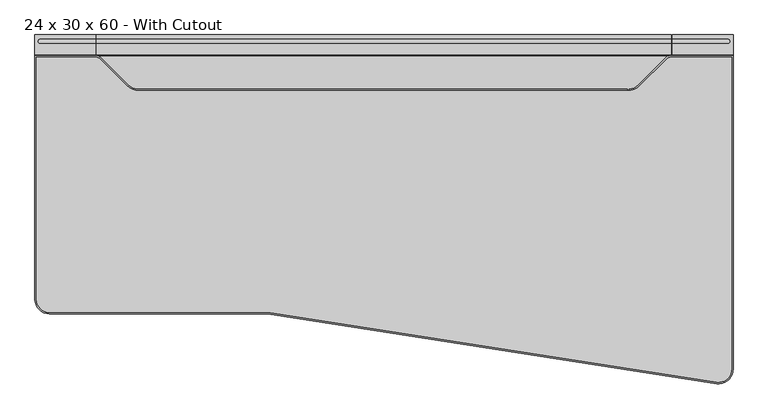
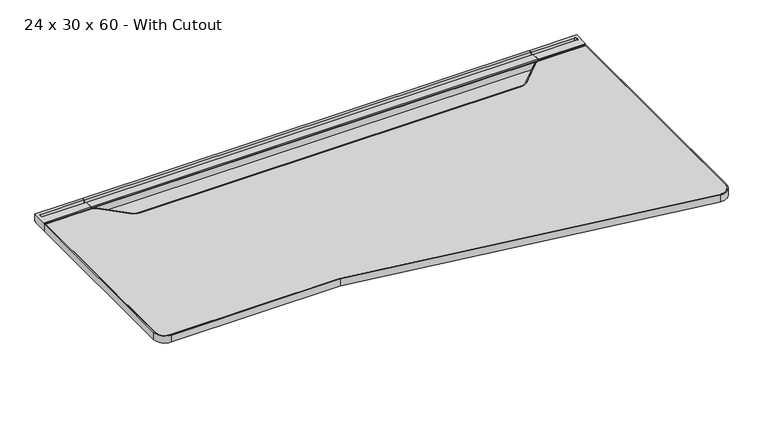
"""IFC4 building model written with IfcOpenShell, lengths in millimetres: furniture geometry, Steelcase - C Scape - Desking - Right Hand Transition - Non Sliding : 24 x 30 x 60 - With Cutout."""

from ifc_helpers import new_model, si_unit, point, frame, frame_2d, origin, place, context, project, spatial, polyline, circle_curve, trimmed, segment, composite_curve, outline, extrude, faceted_brep, source, transform, mapped, element, save
from ifc_brep_helpers import plane_surface, cylinder_surface, revolved_surface, advanced_brep


def furniture_24_x_30_x_60_with_cutout_557fada7(model_context):
    return source(origin(), model_context, "Body", "SolidModel", [
        advanced_brep(
        [(1390.9802124, -45.3135132, 703.3768), (1390.9802124, -45.3135132, 722.4268341), (1390.9802124, -42.7750923, 722.4268341), (1390.9802124, -42.7750923, 725.932), (1390.9802124, -19.3290527, 725.932), (1390.9802124, -19.3290527, 713.486), (1390.9802124, -8.5111084, 713.486), (1390.9802124, -8.5111084, 725.932), (1390.9802124, 0.0, 725.932), (1390.9802124, 0.0, 705.1038636), (1390.9802124, -3.2278472, 705.1038636), (1390.9802124, -4.0331902, 703.3768), (1524.0, -45.3135132, 703.3768), (1524.0, -4.0331902, 703.3768), (1524.0, -3.2278472, 705.1038636), (1524.0, 0.0, 705.1038636), (1524.0, 0.0, 725.932), (1524.0, -42.7750923, 725.932), (1524.0, -42.7750923, 722.4268341), (1524.0, -45.3135132, 722.4268341), (1512.2379272, -8.5111084, 725.932), (1512.2379272, -19.3290527, 725.932), (1512.2379272, -19.3290527, 713.486), (1512.2379272, -8.5111084, 713.486)],
        [
            (0, 1),
            (1, 2),
            (2, 3),
            (3, 4),
            (4, 5),
            (5, 6),
            (6, 7),
            (7, 8),
            (8, 9),
            (9, 10),
            (10, 11),
            (11, 0),
            (12, 13),
            (13, 14),
            (14, 15),
            (15, 16),
            (16, 17),
            (17, 18),
            (18, 19),
            (19, 12),
            (11, 13),
            (12, 0),
            (10, 14),
            (9, 15),
            (8, 16),
            (7, 20),
            (20, 21, circle_curve(frame((1512.2379272, -13.9200806, 725.932), z_axis=(0.0, 0.0, -1.0), x_axis=(-1.0, 0.0, 0.0)), 5.4089722)),
            (21, 4),
            (3, 17),
            (2, 18),
            (1, 19),
            (5, 22),
            (22, 23, circle_curve(frame((1512.2379272, -13.9200806, 713.486), z_axis=(0.0, 0.0, 1.0), x_axis=(-1.0, 0.0, 0.0)), 5.4089722)),
            (23, 6),
            (23, 20),
            (22, 21),
        ],
        [
            plane_surface(frame((1390.9802124, -45.3135132, 703.3768), z_axis=(-1.0, 0.0, 0.0), x_axis=(0.0, 1.0, 0.0))),
            plane_surface(frame((1524.0, -45.3135132, 703.3768), z_axis=(1.0, 0.0, 0.0), x_axis=(0.0, -1.0, 0.0))),
            plane_surface(frame((1390.9802124, -45.3135132, 703.3768), z_axis=(0.0, 0.0, -1.0), x_axis=(1.0, 0.0, 0.0))),
            plane_surface(frame((1390.9802124, -4.0331902, 703.3768), z_axis=(0.0, 0.9063077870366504, -0.4226182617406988), x_axis=(1.0, 0.0, 0.0))),
            plane_surface(frame((1390.9802124, -3.2278472, 705.1038636), z_axis=(0.0, 0.0, -1.0), x_axis=(1.0, 0.0, 0.0))),
            plane_surface(frame((1390.9802124, 0.0, 705.1038636), z_axis=(0.0, 1.0, 0.0), x_axis=(1.0, 0.0, 0.0))),
            plane_surface(frame((1390.9802124, 0.0, 725.932), z_axis=(0.0, 0.0, 1.0), x_axis=(1.0, 0.0, 0.0))),
            plane_surface(frame((1390.9802124, -42.7750923, 725.932), z_axis=(0.0, -1.0, 0.0), x_axis=(1.0, 0.0, 0.0))),
            plane_surface(frame((1390.9802124, -42.7750923, 722.4268341), z_axis=(0.0, 0.0, 1.0), x_axis=(1.0, 0.0, 0.0))),
            plane_surface(frame((1390.9802124, -45.3135132, 722.4268341), z_axis=(0.0, -1.0, 0.0), x_axis=(1.0, 0.0, 0.0))),
            plane_surface(frame((1512.2379272, -8.5111084, 713.486), z_axis=(0.0, 0.0, 1.0), x_axis=(-1.0, 0.0, 0.0))),
            plane_surface(frame((1390.9802124, -8.5111084, 731.2180541), z_axis=(0.0, -1.0, 0.0), x_axis=(0.0, 0.0, -1.0))),
            revolved_surface(polyline([(1506.828955, -13.9200806, 725.932), (1506.828955, -13.9200806, 713.486)]), (1512.2379272, -13.9200806, 713.486), (0.0, 0.0, 1.0)),
            plane_surface(frame((1512.2379272, -19.3290527, 731.2180541), z_axis=(0.0, 1.0, 0.0), x_axis=(0.0, 0.0, -1.0))),
        ],
        [
            (0, [[1, 2, 3, 4, 5, 6, 7, 8, 9, 10, 11, 12]]),
            (1, [[13, 14, 15, 16, 17, 18, 19, 20]]),
            (2, [[21, -13, 22, -12]]),
            (3, [[23, -14, -21, -11]]),
            (4, [[24, -15, -23, -10]]),
            (5, [[25, -16, -24, -9]]),
            (6, [[-25, -8, 26, 27, 28, -4, 29, -17]]),
            (7, [[30, -18, -29, -3]]),
            (8, [[31, -19, -30, -2]]),
            (9, [[-22, -20, -31, -1]]),
            (10, [[-6, 32, 33, 34]]),
            (11, [[35, -26, -7, -34]]),
            (12, [[36, -27, -35, -33]]),
            (13, [[-5, -28, -36, -32]]),
        ],
    ),
        faceted_brep([(1504.9492368, -565.0752923, 700.7093833), (1504.9492368, -565.0752923, 703.3768), (1390.9802124, -565.0752923, 703.3768), (1390.9802124, -565.0752923, 679.3263935), (1406.6143699, -565.0752923, 679.3263935), (1409.2349121, -565.0752923, 693.4200291), (1490.6741272, -565.0752923, 693.4200291), (1504.9492368, -4.0331902, 700.7093833), (1490.6741272, -4.0331902, 693.4200291), (1409.2349121, -4.0331902, 693.4200291), (1397.3286653, -4.0331902, 629.3866), (1390.9802124, -4.0331902, 629.3866), (1390.9802124, -4.0331902, 703.3768), (1504.9492368, -4.0331902, 703.3768), (1404.4490949, -376.5599397, 667.6812472), (1397.3286653, -364.1172546, 629.3866), (1390.9802124, -364.1172546, 629.3866), (1390.9802124, -376.5599397, 667.6812472)], [[[0, 1, 2, 3, 4, 5, 6]], [[7, 8, 9, 10, 11, 12, 13]], [[6, 8, 7, 0]], [[5, 9, 8, 6]], [[9, 5, 4, 14, 15, 10]], [[10, 15, 16, 11]], [[11, 16, 17, 3, 2, 12]], [[1, 13, 12, 2]], [[0, 7, 13, 1]], [[14, 4, 3, 17]], [[17, 16, 15, 14]]]),
        extrude(outline(composite_curve([segment(polyline([(-293.5216187, 657.3775839), (-559.0022133, 680.1371551)]), True, "CONTINUOUS"), segment(trimmed(circle_curve(frame_2d((-558.7581271, 682.9843154)), 2.8576039), [point((-559.0022133, 680.1371551))], [point((-561.5383043, 682.3236226))], False, "CARTESIAN"), True, "CONTINUOUS"), segment(polyline([(-561.5383043, 682.3236226), (-566.0887542, 701.4717905), (-557.8334441, 701.4717905), (-557.8334441, 703.3768), (-442.6683806, 703.3768), (-442.6683806, 696.3917953), (-318.2108611, 696.3917953), (-318.2108611, 703.3768), (-293.5216187, 703.3768), (-293.5216187, 657.3775839)]), True, "CONTINUOUS")], self_intersect=False)), frame((725.424, 0.0, 0.0), z_axis=(1.0, 0.0, 0.0), x_axis=(0.0, 1.0, 0.0)), (0.0, 0.0, 1.0), 73.152),
        advanced_brep(
        [(133.0197876, -45.3135132, 703.3768), (133.0197876, -4.0331902, 703.3768), (133.0197876, -3.2278472, 705.1038636), (133.0197876, 0.0, 705.1038636), (133.0197876, 0.0, 725.932), (133.0197876, -8.5111084, 725.932), (133.0197876, -8.5111084, 713.486), (133.0197876, -19.3290527, 713.486), (133.0197876, -19.3290527, 725.932), (133.0197876, -42.7750923, 725.932), (133.0197876, -42.7750923, 722.4268341), (133.0197876, -45.3135132, 722.4268341), (0.0, -45.3135132, 703.3768), (0.0, -45.3135132, 722.4268341), (0.0, -42.7750923, 722.4268341), (0.0, -42.7750923, 725.932), (0.0, 0.0, 725.932), (0.0, 0.0, 705.1038636), (0.0, -3.2278472, 705.1038636), (0.0, -4.0331902, 703.3768), (11.7620728, -19.3290527, 725.932), (11.7620728, -8.5111084, 725.932), (11.7620728, -8.5111084, 713.486), (11.7620728, -19.3290527, 713.486)],
        [
            (0, 1),
            (1, 2),
            (2, 3),
            (3, 4),
            (4, 5),
            (5, 6),
            (6, 7),
            (7, 8),
            (8, 9),
            (9, 10),
            (10, 11),
            (11, 0),
            (12, 13),
            (13, 14),
            (14, 15),
            (15, 16),
            (16, 17),
            (17, 18),
            (18, 19),
            (19, 12),
            (0, 12),
            (19, 1),
            (18, 2),
            (17, 3),
            (16, 4),
            (15, 9),
            (8, 20),
            (20, 21, circle_curve(frame((11.7620728, -13.9200806, 725.932), z_axis=(0.0, 0.0, -1.0), x_axis=(1.0, 0.0, 0.0)), 5.4089722)),
            (21, 5),
            (14, 10),
            (13, 11),
            (6, 22),
            (22, 23, circle_curve(frame((11.7620728, -13.9200806, 713.486), z_axis=(0.0, 0.0, 1.0), x_axis=(1.0, 0.0, 0.0)), 5.4089722)),
            (23, 7),
            (21, 22),
            (20, 23),
        ],
        [
            plane_surface(frame((133.0197876, -45.3135132, 703.3768), z_axis=(1.0, 0.0, 0.0), x_axis=(0.0, 1.0, 0.0))),
            plane_surface(frame((0.0, -45.3135132, 703.3768), z_axis=(-1.0, 0.0, 0.0), x_axis=(0.0, -1.0, 0.0))),
            plane_surface(frame((133.0197876, -45.3135132, 703.3768), z_axis=(0.0, 0.0, -1.0), x_axis=(-1.0, 0.0, 0.0))),
            plane_surface(frame((133.0197876, -4.0331902, 703.3768), z_axis=(0.0, 0.9063077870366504, -0.4226182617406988), x_axis=(-1.0, 0.0, 0.0))),
            plane_surface(frame((133.0197876, -3.2278472, 705.1038636), z_axis=(0.0, 0.0, -1.0), x_axis=(-1.0, 0.0, 0.0))),
            plane_surface(frame((133.0197876, 0.0, 705.1038636), z_axis=(0.0, 1.0, 0.0), x_axis=(-1.0, 0.0, 0.0))),
            plane_surface(frame((133.0197876, 0.0, 725.932), z_axis=(0.0, 0.0, 1.0), x_axis=(-1.0, 0.0, 0.0))),
            plane_surface(frame((133.0197876, -42.7750923, 725.932), z_axis=(0.0, -1.0, 0.0), x_axis=(-1.0, 0.0, 0.0))),
            plane_surface(frame((133.0197876, -42.7750923, 722.4268341), z_axis=(0.0, 0.0, 1.0), x_axis=(-1.0, 0.0, 0.0))),
            plane_surface(frame((133.0197876, -45.3135132, 722.4268341), z_axis=(0.0, -1.0, 0.0), x_axis=(-1.0, 0.0, 0.0))),
            plane_surface(frame((11.7620728, -8.5111084, 713.486), z_axis=(0.0, 0.0, 1.0), x_axis=(1.0, 0.0, 0.0))),
            plane_surface(frame((133.0197876, -8.5111084, 731.2180541), z_axis=(0.0, -1.0, 0.0), x_axis=(0.0, 0.0, -1.0))),
            revolved_surface(polyline([(17.171045, -13.9200806, 725.932), (17.171045, -13.9200806, 713.486)]), (11.7620728, -13.9200806, 713.486), (0.0, 0.0, 1.0)),
            plane_surface(frame((11.7620728, -19.3290527, 731.2180541), z_axis=(0.0, 1.0, 0.0), x_axis=(0.0, 0.0, -1.0))),
        ],
        [
            (0, [[1, 2, 3, 4, 5, 6, 7, 8, 9, 10, 11, 12]]),
            (1, [[13, 14, 15, 16, 17, 18, 19, 20]]),
            (2, [[-1, 21, -20, 22]]),
            (3, [[-2, -22, -19, 23]]),
            (4, [[-3, -23, -18, 24]]),
            (5, [[-4, -24, -17, 25]]),
            (6, [[-16, 26, -9, 27, 28, 29, -5, -25]]),
            (7, [[-10, -26, -15, 30]]),
            (8, [[-11, -30, -14, 31]]),
            (9, [[-12, -31, -13, -21]]),
            (10, [[32, 33, 34, -7]]),
            (11, [[-32, -6, -29, 35]]),
            (12, [[-33, -35, -28, 36]]),
            (13, [[-34, -36, -27, -8]]),
        ],
    ),
        faceted_brep([(19.0507632, -565.0752923, 700.7093833), (33.3258728, -565.0752923, 693.4200291), (114.7650879, -565.0752923, 693.4200291), (117.3856301, -565.0752923, 679.3263935), (133.0197876, -565.0752923, 679.3263935), (133.0197876, -565.0752923, 703.3768), (19.0507632, -565.0752923, 703.3768), (19.0507632, -4.0331902, 700.7093833), (19.0507632, -4.0331902, 703.3768), (133.0197876, -4.0331902, 703.3768), (133.0197876, -4.0331902, 629.3866), (126.6713347, -4.0331902, 629.3866), (114.7650879, -4.0331902, 693.4200291), (33.3258728, -4.0331902, 693.4200291), (126.6713347, -364.1172546, 629.3866), (119.5509051, -376.5599397, 667.6812472), (133.0197876, -364.1172546, 629.3866), (133.0197876, -376.5599397, 667.6812472)], [[[0, 1, 2, 3, 4, 5, 6]], [[7, 8, 9, 10, 11, 12, 13]], [[1, 0, 7, 13]], [[2, 1, 13, 12]], [[12, 11, 14, 15, 3, 2]], [[11, 10, 16, 14]], [[10, 9, 5, 4, 17, 16]], [[6, 5, 9, 8]], [[0, 6, 8, 7]], [[15, 17, 4, 3]], [[17, 15, 14, 16]]]),
        extrude(outline(polyline([(-8.5111084, 725.932), (0.0, 725.932), (0.0, 705.1038636), (-3.2278472, 705.1038636), (-4.0331902, 703.3768), (-45.3135132, 703.3768), (-45.3135132, 722.4268341), (-42.7750923, 722.4268341), (-42.7750923, 725.932), (-19.3290527, 725.932), (-19.3290527, 713.486), (-8.5111084, 713.486), (-8.5111084, 725.932)])), frame((133.6675, 0.0, 0.0), z_axis=(1.0, 0.0, 0.0), x_axis=(0.0, 1.0, 0.0)), (0.0, 0.0, 1.0), 1255.7252124),
        extrude(outline(polyline([(133.6675, -293.5216187), (133.6675, -4.0331902), (1389.3927124, -4.0331902), (1389.3927124, -293.5216187), (133.6675, -293.5216187)])), frame((0.0, 0.0, 629.3866), z_axis=(0.0, 0.0, 1.0), x_axis=(1.0, 0.0, 0.0)), (0.0, 0.0, 1.0), 73.9902),
        extrude(outline(composite_curve([segment(polyline([(508.0002405, -606.5490234), (31.8007993, -606.5490234)]), True, "CONTINUOUS"), segment(trimmed(circle_curve(frame_2d((31.8007993, -577.7962241)), 28.7527993), [point((31.8007993, -606.5490234))], [point((3.048, -577.7962241))], False, "CARTESIAN"), True, "CONTINUOUS"), segment(polyline([(3.048, -577.7962241), (3.048, -48.3660689), (131.6700001, -48.3660689)]), True, "CONTINUOUS"), segment(trimmed(circle_curve(frame_2d((131.6700001, -63.6060689)), 15.24), [point((131.6700001, -48.3660689))], [point((142.4463079, -52.8297619))], False, "CARTESIAN"), True, "CONTINUOUS"), segment(polyline([(142.4463079, -52.8297619), (199.9201078, -110.303566)]), True, "CONTINUOUS"), segment(trimmed(circle_curve(frame_2d((226.8608771, -83.3627986)), 38.1), [point((199.9201078, -110.303566))], [point((226.8608771, -121.4627986))], True, "CARTESIAN"), True, "CONTINUOUS"), segment(polyline([(226.8608771, -121.4627986), (1294.6835261, -121.4627986)]), True, "CONTINUOUS"), segment(trimmed(circle_curve(frame_2d((1294.6835261, -83.3627986)), 38.1), [point((1294.6835261, -121.4627986))], [point((1321.6242945, -110.303567))], True, "CARTESIAN"), True, "CONTINUOUS"), segment(polyline([(1321.6242945, -110.303567), (1379.1588568, -52.7690046)]), True, "CONTINUOUS"), segment(trimmed(circle_curve(frame_2d((1389.788484, -63.3986318)), 15.0325629), [point((1379.1588568, -52.7690046))], [point((1389.788484, -48.3660689))], False, "CARTESIAN"), True, "CONTINUOUS"), segment(polyline([(1389.788484, -48.3660689), (1520.952, -48.3660689), (1520.952, -730.055403)]), True, "CONTINUOUS"), segment(trimmed(circle_curve(frame_2d((1491.4234075, -730.055403)), 29.5285925), [point((1520.952, -730.055403))], [point((1488.3008291, -759.4184287))], False, "CARTESIAN"), True, "CONTINUOUS"), segment(polyline([(1488.3008291, -759.4184287), (508.0002405, -606.5490234)]), True, "CONTINUOUS")], self_intersect=False)), frame((0.0, 0.0, 703.3768), z_axis=(0.0, 0.0, 1.0), x_axis=(1.0, 0.0, 0.0)), (0.0, 0.0, 1.0), 20.5232),
        advanced_brep(
        [(1292.8564053, -118.4118221, 723.9), (1292.8564053, -121.4627986, 723.9), (1292.8564053, -121.4627986, 703.3768), (1292.8564053, -118.4118221, 703.3768), (223.9255059, -121.4627986, 723.9), (223.9255059, -121.4627986, 703.3768), (223.9255059, -118.4118221, 703.3768), (223.9255059, -118.4118221, 723.9), (201.9957286, -112.379187, 703.3768), (201.9957286, -112.379187, 723.9), (204.1530949, -110.2218209, 723.9), (204.1530949, -110.2218209, 703.3768), (142.3719136, -52.7553676, 723.9), (142.3719136, -52.7553676, 703.3768), (144.5292799, -50.5980015, 703.3768), (144.5292799, -50.5980015, 723.9), (133.2679227, -48.3660689, 703.3768), (133.2679227, -48.3660689, 723.9), (133.4327798, -45.3150923, 723.9), (133.4327798, -45.3150923, 703.3768), (3.048, -48.3660689, 723.9), (3.048, -48.3660689, 703.3768), (-0.0029766, -45.3150923, 703.3768), (-0.0029766, -45.3150923, 723.9), (3.048, -577.7962241, 723.9), (3.048, -577.7962241, 703.3768), (-0.0029766, -577.7962241, 703.3768), (-0.0029766, -577.7962241, 723.9), (31.8007993, -606.5490234, 703.3768), (31.8007993, -606.5490234, 723.9), (31.8007993, -609.6, 723.9), (31.8007993, -609.6, 703.3768), (508.0002405, -606.5490234, 723.9), (508.0002405, -606.5490234, 703.3768), (507.7637827, -609.6, 703.3768), (507.7637827, -609.6, 723.9), (1488.3008291, -759.4184287, 723.9), (1488.3008291, -759.4184287, 703.3768), (1487.8307371, -762.432972, 703.3768), (1487.8307371, -762.432972, 723.9), (1520.952, -730.055403, 723.9), (1524.0029766, -730.055403, 723.9), (1524.0029766, -45.3150923, 723.9), (1388.6053399, -45.3150923, 723.9), (1380.517872, -47.0952981, 723.9), (1317.3912931, -110.2218359, 723.9), (1297.6189084, -118.4118221, 723.9), (1297.6189084, -121.4627986, 723.9), (1319.5486586, -112.3792028, 723.9), (1382.2743869, -49.6535154, 723.9), (1388.6053399, -48.3660689, 723.9), (1520.952, -48.3660689, 723.9), (1520.952, -730.055403, 703.3768), (1524.0029766, -730.055403, 703.3768), (1520.952, -48.3660689, 703.3768), (1388.6053399, -48.3660689, 703.3768), (1382.2743869, -49.6535154, 703.3768), (1319.5486586, -112.3792028, 703.3768), (1297.6189084, -121.4627986, 703.3768), (1297.6189084, -118.4118221, 703.3768), (1317.3912931, -110.2218359, 703.3768), (1380.517872, -47.0952981, 703.3768), (1388.6053399, -45.3150923, 703.3768), (1524.0029766, -45.3150923, 703.3768)],
        [
            (0, 1),
            (1, 2),
            (2, 3),
            (3, 0),
            (1, 4),
            (4, 5),
            (5, 2),
            (3, 6),
            (6, 7),
            (7, 0),
            (8, 5, circle_curve(frame((223.9255059, -90.4494114, 703.3768), z_axis=(0.0, 0.0, 1.0), x_axis=(0.0, -1.0, 0.0)), 31.0133872)),
            (4, 9, circle_curve(frame((223.9255059, -90.4494114, 723.9), z_axis=(0.0, 0.0, -1.0), x_axis=(0.0, -1.0, 0.0)), 31.0133872)),
            (9, 8),
            (10, 7, circle_curve(frame((223.9255059, -90.4494114, 723.9), z_axis=(0.0, 0.0, 1.0), x_axis=(0.0, -1.0, 0.0)), 27.9624107)),
            (6, 11, circle_curve(frame((223.9255059, -90.4494114, 703.3768), z_axis=(0.0, 0.0, -1.0), x_axis=(0.0, -1.0, 0.0)), 27.9624107)),
            (11, 10),
            (9, 12),
            (12, 13),
            (13, 8),
            (11, 14),
            (14, 15),
            (15, 10),
            (16, 13, circle_curve(frame((131.5389064, -63.588374, 703.3768), z_axis=(0.0, 0.0, -1.0), x_axis=(0.7071068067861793, 0.7071067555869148, 0.0)), 15.3201851)),
            (12, 17, circle_curve(frame((131.5389064, -63.588374, 723.9), z_axis=(0.0, 0.0, 1.0), x_axis=(0.7071068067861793, 0.7071067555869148, 0.0)), 15.3201851)),
            (17, 16),
            (18, 15, circle_curve(frame((131.5389064, -63.588374, 723.9), z_axis=(0.0, 0.0, -1.0), x_axis=(0.7071068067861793, 0.7071067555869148, 0.0)), 18.3711616)),
            (14, 19, circle_curve(frame((131.5389064, -63.588374, 703.3768), z_axis=(0.0, 0.0, 1.0), x_axis=(0.7071068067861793, 0.7071067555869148, 0.0)), 18.3711616)),
            (19, 18),
            (17, 20),
            (20, 21),
            (21, 16),
            (19, 22),
            (22, 23),
            (23, 18),
            (20, 24),
            (24, 25),
            (25, 21),
            (22, 26),
            (26, 27),
            (27, 23),
            (28, 25, circle_curve(frame((31.8007993, -577.7962241, 703.3768), z_axis=(0.0, 0.0, -1.0), x_axis=(-1.0, 0.0, 0.0)), 28.7527993)),
            (24, 29, circle_curve(frame((31.8007993, -577.7962241, 723.9), z_axis=(0.0, 0.0, 1.0), x_axis=(-1.0, 0.0, 0.0)), 28.7527993)),
            (29, 28),
            (30, 27, circle_curve(frame((31.8007993, -577.7962241, 723.9), z_axis=(0.0, 0.0, -1.0), x_axis=(-1.0, 0.0, 0.0)), 31.8037759)),
            (26, 31, circle_curve(frame((31.8007993, -577.7962241, 703.3768), z_axis=(0.0, 0.0, 1.0), x_axis=(-1.0, 0.0, 0.0)), 31.8037759)),
            (31, 30),
            (29, 32),
            (32, 33),
            (33, 28),
            (31, 34),
            (34, 35),
            (35, 30),
            (32, 36),
            (36, 37),
            (37, 33),
            (34, 38),
            (38, 39),
            (39, 35),
            (40, 36, circle_curve(frame((1491.4234075, -730.055403, 723.9), z_axis=(0.0, 0.0, -1.0), x_axis=(-0.10574762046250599, -0.9943930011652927, 0.0)), 29.5285925)),
            (39, 41, circle_curve(frame((1491.4234075, -730.055403, 723.9), z_axis=(0.0, 0.0, 1.0), x_axis=(-0.10574762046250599, -0.9943930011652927, 0.0)), 32.5795691)),
            (41, 42),
            (42, 43),
            (43, 44, circle_curve(frame((1388.6053399, -64.5758622, 723.9), z_axis=(0.0, 0.0, 1.0), x_axis=(0.0, 1.0, 0.0)), 19.2607699)),
            (44, 45),
            (45, 46, circle_curve(frame((1297.6189084, -90.4494383, 723.9), z_axis=(0.0, 0.0, -1.0), x_axis=(0.7071065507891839, -0.707107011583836, 0.0)), 27.9623838)),
            (46, 47),
            (47, 48, circle_curve(frame((1297.6189084, -90.4494383, 723.9), z_axis=(0.0, 0.0, 1.0), x_axis=(0.7071065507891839, -0.707107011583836, 0.0)), 31.0133604)),
            (48, 49),
            (49, 50, circle_curve(frame((1388.6053399, -64.5758622, 723.9), z_axis=(0.0, 0.0, -1.0), x_axis=(0.0, 1.0, 0.0)), 16.2097933)),
            (50, 51),
            (51, 40),
            (52, 37, circle_curve(frame((1491.4234075, -730.055403, 703.3768), z_axis=(0.0, 0.0, -1.0), x_axis=(-0.10574762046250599, -0.9943930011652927, 0.0)), 29.5285925)),
            (40, 52),
            (53, 38, circle_curve(frame((1491.4234075, -730.055403, 703.3768), z_axis=(0.0, 0.0, -1.0), x_axis=(-0.10574762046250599, -0.9943930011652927, 0.0)), 32.5795691)),
            (52, 54),
            (54, 55),
            (55, 56, circle_curve(frame((1388.6053399, -64.5758622, 703.3768), z_axis=(0.0, 0.0, 1.0), x_axis=(0.0, 1.0, 0.0)), 16.2097933)),
            (56, 57),
            (57, 58, circle_curve(frame((1297.6189084, -90.4494383, 703.3768), z_axis=(0.0, 0.0, -1.0), x_axis=(0.7071065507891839, -0.707107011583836, 0.0)), 31.0133604)),
            (58, 59),
            (59, 60, circle_curve(frame((1297.6189084, -90.4494383, 703.3768), z_axis=(0.0, 0.0, 1.0), x_axis=(0.7071065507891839, -0.707107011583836, 0.0)), 27.9623838)),
            (60, 61),
            (61, 62, circle_curve(frame((1388.6053399, -64.5758622, 703.3768), z_axis=(0.0, 0.0, -1.0), x_axis=(0.0, 1.0, 0.0)), 19.2607699)),
            (62, 63),
            (63, 53),
            (53, 41),
            (51, 54),
            (63, 42),
            (50, 55),
            (62, 43),
            (49, 56),
            (61, 44),
            (48, 57),
            (60, 45),
            (46, 59),
            (58, 47),
        ],
        [
            plane_surface(frame((1292.8564053, -121.4627986, 0.0), z_axis=(1.0, 0.0, 0.0), x_axis=(0.0, 0.0, 1.0))),
            plane_surface(frame((1292.8564053, -121.4627986, 723.9), z_axis=(0.0, -1.0, 0.0), x_axis=(-1.0, 0.0, 0.0))),
            plane_surface(frame((1292.8564053, -118.4118221, 703.3768), z_axis=(0.0, 1.0, 0.0), x_axis=(-1.0, 0.0, 0.0))),
            cylinder_surface(frame((223.9255059, -90.4494114, 0.0), z_axis=(0.0, 0.0, -1.0), x_axis=(0.0, -1.0, 0.0)), 31.0133872),
            revolved_surface(polyline([(223.9255059, -118.4118221, 703.3768), (223.9255059, -118.4118221, 723.9)]), (223.9255059, -90.4494114, 0.0), (0.0, 0.0, -1.0)),
            plane_surface(frame((201.9957286, -112.379187, 723.9), z_axis=(-0.7071068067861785, -0.7071067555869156, 0.0), x_axis=(-0.7071067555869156, 0.7071068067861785, 0.0))),
            plane_surface(frame((204.1530949, -110.2218209, 703.3768), z_axis=(0.7071068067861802, 0.707106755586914, 0.0), x_axis=(-0.707106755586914, 0.7071068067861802, 0.0))),
            revolved_surface(polyline([(142.3719135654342, -52.75536761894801, 723.9), (142.3719135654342, -52.75536761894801, 703.3768)]), (131.5389064, -63.588374, 0.0), (0.0, 0.0, 1.0)),
            cylinder_surface(frame((131.5389064, -63.588374, 0.0), z_axis=(0.0, 0.0, 1.0), x_axis=(0.7071068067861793, 0.7071067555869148, 0.0)), 18.3711616),
            plane_surface(frame((133.2679227, -48.3660689, 723.9), z_axis=(0.0, -1.0, 0.0), x_axis=(-1.0, 0.0, 0.0))),
            plane_surface(frame((133.4327798, -45.3150923, 703.3768), z_axis=(0.0, 1.0, 0.0), x_axis=(-1.0, 0.0, 0.0))),
            plane_surface(frame((3.048, -48.3660689, 723.9), z_axis=(1.0, 0.0, 0.0), x_axis=(0.0, -1.0, 0.0))),
            plane_surface(frame((-0.0029766, -45.3150923, 703.3768), z_axis=(-1.0, 0.0, 0.0), x_axis=(0.0, -1.0, 0.0))),
            revolved_surface(polyline([(3.048000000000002, -577.7962241, 723.9), (3.048000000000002, -577.7962241, 703.3768)]), (31.8007993, -577.7962241, 0.0), (0.0, 0.0, 1.0)),
            cylinder_surface(frame((31.8007993, -577.7962241, 0.0), z_axis=(0.0, 0.0, 1.0), x_axis=(-1.0, 0.0, 0.0)), 31.8037759),
            plane_surface(frame((31.8007993, -606.5490234, 723.9), z_axis=(0.0, 1.0, 0.0), x_axis=(1.0, 0.0, 0.0))),
            plane_surface(frame((31.8007993, -609.6, 703.3768), z_axis=(0.0, -1.0, 0.0), x_axis=(1.0, 0.0, 0.0))),
            plane_surface(frame((508.0002405, -606.5490234, 723.9), z_axis=(0.15407918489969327, 0.9880585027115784, 0.0), x_axis=(0.9880585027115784, -0.15407918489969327, 0.0))),
            plane_surface(frame((507.7637827, -609.6, 703.3768), z_axis=(-0.1540791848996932, -0.9880585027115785, 0.0), x_axis=(0.9880585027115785, -0.1540791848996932, 0.0))),
            plane_surface(frame((1491.4234075, -730.055403, 723.9), z_axis=(0.0, 0.0, 1.0000000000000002), x_axis=(-0.10574762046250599, -0.9943930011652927, 0.0))),
            revolved_surface(polyline([(1488.300829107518, -759.4184287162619, 723.9), (1488.300829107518, -759.4184287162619, 703.3768)]), (1491.4234075, -730.055403, 0.0), (0.0, 0.0, 1.0)),
            plane_surface(frame((1491.4234075, -730.055403, 703.3768), z_axis=(0.0, 0.0, -1.0000000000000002), x_axis=(-0.10574762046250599, -0.9943930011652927, 0.0))),
            cylinder_surface(frame((1491.4234075, -730.055403, 0.0), z_axis=(0.0, 0.0, 1.0), x_axis=(-0.10574762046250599, -0.9943930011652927, 0.0)), 32.5795691),
            plane_surface(frame((1520.952, -730.055403, 723.9), z_axis=(-1.0, 0.0, 0.0), x_axis=(0.0, 1.0, 0.0))),
            plane_surface(frame((1524.0029766, -730.055403, 703.3768), z_axis=(1.0, 0.0, 0.0), x_axis=(0.0, 1.0, 0.0))),
            plane_surface(frame((1520.952, -48.3660689, 723.9), z_axis=(0.0, -1.0, 0.0), x_axis=(-1.0, 0.0, 0.0))),
            plane_surface(frame((1524.0029766, -45.3150923, 703.3768), z_axis=(0.0, 1.0, 0.0), x_axis=(-1.0, 0.0, 0.0))),
            revolved_surface(polyline([(1388.6053399, -48.3660689, 723.9), (1388.6053399, -48.3660689, 703.3768)]), (1388.6053399, -64.5758622, 0.0), (0.0, 0.0, 1.0)),
            cylinder_surface(frame((1388.6053399, -64.5758622, 0.0), z_axis=(0.0, 0.0, 1.0), x_axis=(0.0, 1.0, 0.0)), 19.2607699),
            plane_surface(frame((1382.2743869, -49.6535154, 723.9), z_axis=(0.7071065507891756, -0.7071070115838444, 0.0), x_axis=(-0.7071070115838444, -0.7071065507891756, 0.0))),
            plane_surface(frame((1380.517872, -47.0952981, 703.3768), z_axis=(-0.7071065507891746, 0.7071070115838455, 0.0), x_axis=(-0.7071070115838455, -0.7071065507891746, 0.0))),
            plane_surface(frame((1297.6189084, -121.4627986, 0.0), z_axis=(-1.0, 0.0, 0.0), x_axis=(0.0, 0.0, 1.0))),
            cylinder_surface(frame((1297.6189084, -90.4494383, 0.0), z_axis=(0.0, 0.0, -1.0), x_axis=(0.7071065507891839, -0.707107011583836, 0.0)), 31.0133604),
            revolved_surface(polyline([(1317.3912931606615, -110.22183594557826, 703.3768), (1317.3912931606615, -110.22183594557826, 723.9)]), (1297.6189084, -90.4494383, 0.0), (0.0, 0.0, -1.0)),
        ],
        [
            (0, [[1, 2, 3, 4]]),
            (1, [[-2, 5, 6, 7]]),
            (2, [[-4, 8, 9, 10]]),
            (3, [[11, -6, 12, 13]]),
            (4, [[14, -9, 15, 16]]),
            (5, [[-13, 17, 18, 19]]),
            (6, [[-16, 20, 21, 22]]),
            (7, [[23, -18, 24, 25]]),
            (8, [[26, -21, 27, 28]]),
            (9, [[-25, 29, 30, 31]]),
            (10, [[-28, 32, 33, 34]]),
            (11, [[-30, 35, 36, 37]]),
            (12, [[-33, 38, 39, 40]]),
            (13, [[41, -36, 42, 43]]),
            (14, [[44, -39, 45, 46]]),
            (15, [[-43, 47, 48, 49]]),
            (16, [[-46, 50, 51, 52]]),
            (17, [[-48, 53, 54, 55]]),
            (18, [[-51, 56, 57, 58]]),
            (19, [[59, -53, -47, -42, -35, -29, -24, -17, -12, -5, -1, -10, -14, -22, -26, -34, -40, -44, -52, -58, 60, 61, 62, 63, 64, 65, 66, 67, 68, 69, 70, 71]]),
            (20, [[72, -54, -59, 73]]),
            (21, [[74, -56, -50, -45, -38, -32, -27, -20, -15, -8, -3, -7, -11, -19, -23, -31, -37, -41, -49, -55, -72, 75, 76, 77, 78, 79, 80, 81, 82, 83, 84, 85]]),
            (22, [[-60, -57, -74, 86]]),
            (23, [[-73, -71, 87, -75]]),
            (24, [[-86, -85, 88, -61]]),
            (25, [[-87, -70, 89, -76]]),
            (26, [[-88, -84, 90, -62]]),
            (27, [[-77, -89, -69, 91]]),
            (28, [[-63, -90, -83, 92]]),
            (29, [[-91, -68, 93, -78]]),
            (30, [[-92, -82, 94, -64]]),
            (31, [[95, -80, 96, -66]]),
            (32, [[-79, -93, -67, -96]]),
            (33, [[-65, -94, -81, -95]]),
        ],
    ),
    ])


if __name__ == "__main__":
    model = new_model("IFC4")
    model_context = context("Model", 3, world=origin())
    ifc_project = project(units=[si_unit("LENGTHUNIT", "METRE", prefix="MILLI")], contexts=[model_context])
    site = spatial("IfcSite", under=ifc_project)
    building = spatial("IfcBuilding", under=site)
    placement = place(None, origin())
    furniture_24_x_30_x_60_with_cutout_shape = furniture_24_x_30_x_60_with_cutout_557fada7(model_context)
    element("IfcFurniture", 1, ObjectType="Steelcase - C Scape - Desking - Right Hand Transition - Non Sliding : 24 x 30 x 60 - With Cutout", at=placement, inside=building, context=model_context, shape_type="MappedRepresentation", body=[
        mapped(furniture_24_x_30_x_60_with_cutout_shape, transform((0.0, 0.0, 0.0), x_axis=(1.0, 0.0, 0.0), y_axis=(0.0, 1.0, 0.0), z_axis=(0.0, 0.0, 1.0))),
    ])
    save(model, "model.ifc")
